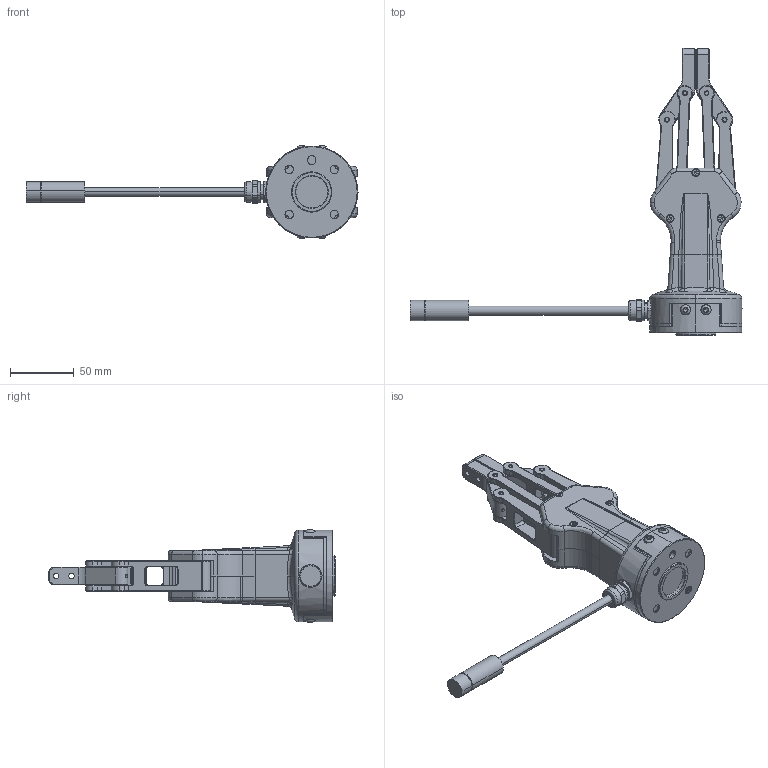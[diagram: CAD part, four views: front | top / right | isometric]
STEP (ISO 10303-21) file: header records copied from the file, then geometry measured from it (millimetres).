
FILE_DESCRIPTION (( 'STEP AP203' ), '1' );
FILE_NAME ('Z-EFG-130 Íâ·¢Ä£ÐÍ.STEP', '2024-08-07T09:56:26', ( '' ), ( '' ), 'SwSTEP 2.0', 'SolidWorks 2022', '' );
FILE_SCHEMA (( 'CONFIG_CONTROL_DESIGN' ));
Length unit declared in the file: millimetre
Products named in the file (5): EFG-130掛极; 忒硌; 植雄裝; Z-EFG-130 俋楷耀倰; 翋雄裝
Assembly tree (7 placements, depth 2):
  Z-EFG-130 俋楷耀倰
    EFG-130掛极
    翋雄裝  x2
    忒硌  x2
    植雄裝  x2
Bounding box: 259.9 x 224.66 x 72.6 mm (x, y, z)
Volume: 358542.9 mm3; surface area: 104799.6 mm2
Topology: 34 solids, 34 shells, 1449 faces, 3417 edges, 2122 vertices
Faces by surface type: cylinder 575, plane 490, cone 272, bspline 76, torus 29, sphere 7
Entity records: 39659 total; most frequent: CARTESIAN_POINT 12033, DIRECTION 5847, ORIENTED_EDGE 5492, EDGE_CURVE 2746, AXIS2_PLACEMENT_3D 2299, VERTEX_POINT 1742, EDGE_LOOP 1314, VECTOR 1249
